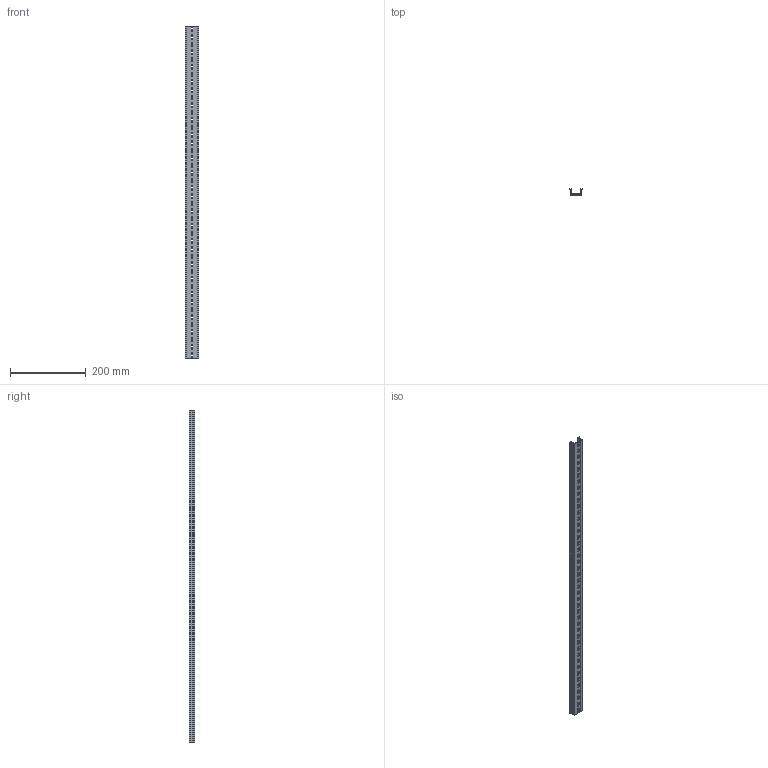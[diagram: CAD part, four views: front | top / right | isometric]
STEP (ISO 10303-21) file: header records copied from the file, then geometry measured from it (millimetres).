
FILE_DESCRIPTION(/* description */ (''),/* implementation_level */ '2;1');
FILE_NAME(/* name */ '22650-(TKB KD-44)HP 3D.stp',/* time_stamp */ '2024-12-05T14:25:26+09:00',/* author */ ('usercadg104'),/* organization */ (''),/* preprocessor_version */ 'ST-DEVELOPER v19.2',/* originating_system */ 'Autodesk Inventor 2023',/* authorisation */ '');
FILE_SCHEMA (('CONFIG_CONTROL_DESIGN'));
Length unit declared in the file: millimetre
Products named in the file (1): TKB KD-3(林)
Bounding box: 35 x 15 x 877 mm (x, y, z)
Volume: 102609.8 mm3; surface area: 118457.4 mm2
Topology: 1 solids, 1 shells, 216 faces, 642 edges, 428 vertices
Faces by surface type: plane 124, cylinder 92
Entity records: 7489 total; most frequent: CARTESIAN_POINT 1287, ORIENTED_EDGE 1284, DIRECTION 1260, EDGE_CURVE 642, LINE 458, VECTOR 458, VERTEX_POINT 428, AXIS2_PLACEMENT_3D 401
